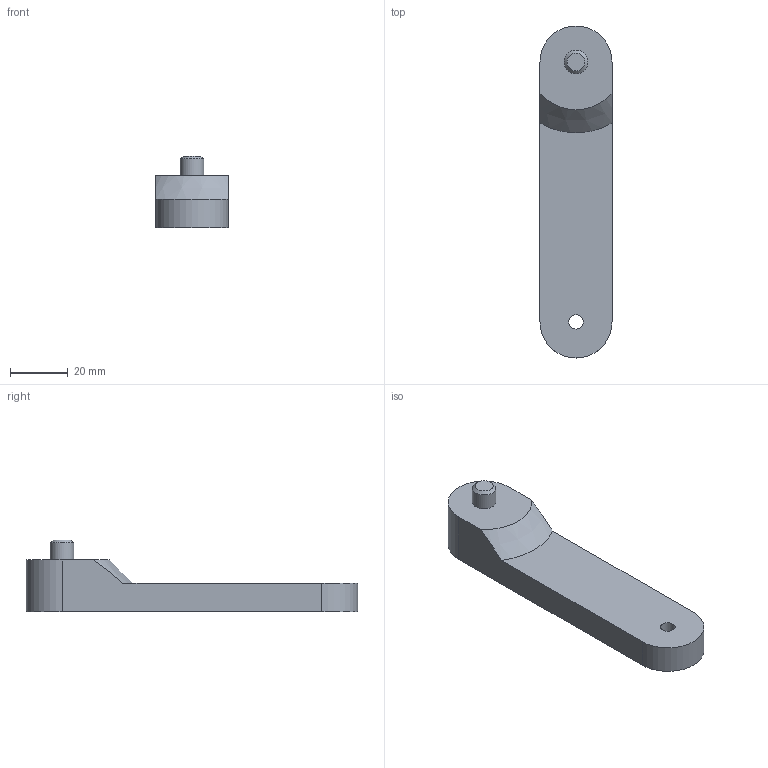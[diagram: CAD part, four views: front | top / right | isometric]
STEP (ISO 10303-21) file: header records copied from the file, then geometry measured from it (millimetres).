
FILE_DESCRIPTION(('STEP AP242 Edition 2','STEP AP242 Edition 2''CAx-IF Rec.Pracs.---Representation and Presentation of Product Manufacturing Information (PMI)---4.0---2014-10-13','STEP AP242 Edition 2''CAx-IF Rec.Pracs.---Representation and Presentation of Product Manufacturing Information (PMI)---4.0---2014-10-13''CAx-IF Rec.Pracs.---3D Tessellated Geometry---0.4---2014-09-14','STEP AP242 Edition 2''CAx-IF Rec.Pracs.---Representation and Presentation of Product Manufacturing Information (PMI)---4.0---2014-10-13''CAx-IF Rec.Pracs.---3D Tessellated Geometry---0.4---2014-09-14''2;1','STEP AP242 Edition 2''CAx-IF Rec.Pracs.---Representation and Presentation of Product Manufacturing Information (PMI)---4.0---2014-10-13''CAx-IF Rec.Pracs.---3D Tessellated Geometry---0.4---2014-09-14''2;1''CAx-IF Rec.Pracs.---User Defined Attributes---1.5---2016-08-15'),'2;1');
FILE_NAME('/vol/tmp/translate-17459121042689540201/Draw Bot V3 - Right L1 Arm.step','2026-03-21T23:30:54',(''),(''),'ST-DEVELOPER v20','ONSHAPE BY PTC INC, 1.212',' ');
FILE_SCHEMA(('AP242_MANAGED_MODEL_BASED_3D_ENGINEERING_MIM_LF { 1 0 10303 442 3 1 4 }'));
Length unit declared in the file: millimetre
Products named in the file (1): Right L1 Arm
Bounding box: 25 x 115 x 24.9 mm (x, y, z)
Volume: 32781.1 mm3; surface area: 9473.5 mm2
Topology: 1 solids, 1 shells, 25 faces, 53 edges, 35 vertices
Faces by surface type: plane 10, cylinder 8, cone 7
Full cylindrical faces by diameter (mm): 4 x4, 5 x1, 8.2 x1
Entity records: 608 total; most frequent: DIRECTION 110, CARTESIAN_POINT 100, ORIENTED_EDGE 72, AXIS2_PLACEMENT_3D 50, EDGE_LOOP 44, FACE_BOUND 44, EDGE_CURVE 36, VERTEX_POINT 30
